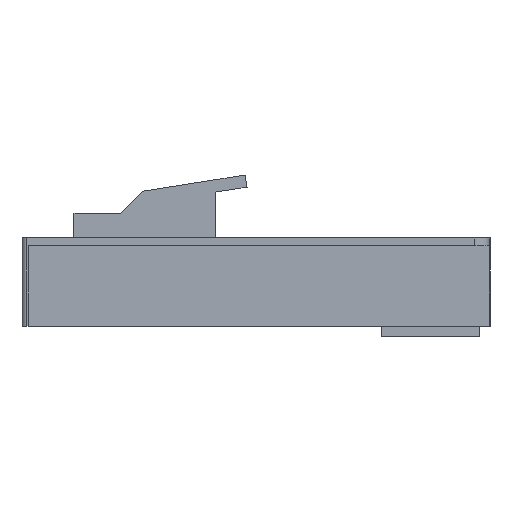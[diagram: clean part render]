
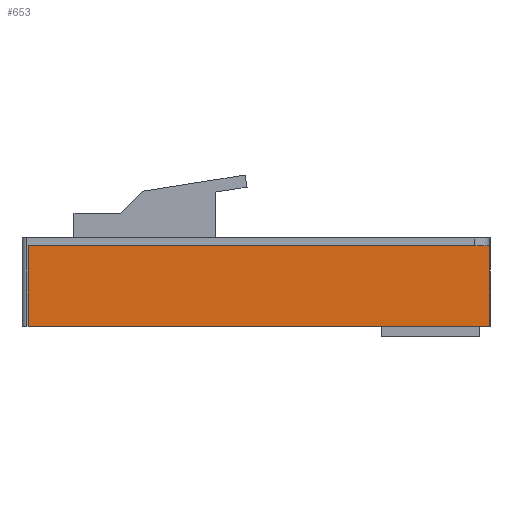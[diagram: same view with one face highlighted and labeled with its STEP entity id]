
A CAD part, left-side view. The second image highlights one B-rep face of the part: STEP entity #653.
In plain terms, the highlighted planar face has unit normal (-1, 0, 0).
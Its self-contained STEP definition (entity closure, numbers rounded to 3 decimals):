
#8 = ORIENTED_EDGE ( 'NONE', *, *, #819, .F. ) ;
#10 = ORIENTED_EDGE ( 'NONE', *, *, #886, .F. ) ;
#12 = ORIENTED_EDGE ( 'NONE', *, *, #858, .T. ) ;
#14 = ORIENTED_EDGE ( 'NONE', *, *, #910, .T. ) ;
#89 = FACE_OUTER_BOUND ( 'NONE', #681, .T. ) ;
#99 = VECTOR ( 'NONE', #377, 1000. ) ;
#100 = LINE ( 'NONE', #359, #99 ) ;
#106 = LINE ( 'NONE', #291, #476 ) ;
#141 = VECTOR ( 'NONE', #348, 1000. ) ;
#142 = LINE ( 'NONE', #347, #141 ) ;
#167 = DIRECTION ( 'NONE',  ( 1., 0., 0. ) ) ;
#183 = DIRECTION ( 'NONE',  ( 0., 1., 0. ) ) ;
#187 = PLANE ( 'NONE',  #867 ) ;
#223 = CARTESIAN_POINT ( 'NONE',  ( -3.3, 44.1, -1.6 ) ) ;
#242 = CARTESIAN_POINT ( 'NONE',  ( -3.3, 44.1, -1.6 ) ) ;
#291 = CARTESIAN_POINT ( 'NONE',  ( -3.3, 44.1, -18. ) ) ;
#296 = DIRECTION ( 'NONE',  ( 0., -1., 0. ) ) ;
#347 = CARTESIAN_POINT ( 'NONE',  ( -3.3, -49.89, -1.6 ) ) ;
#348 = DIRECTION ( 'NONE',  ( 0., 0., -1. ) ) ;
#359 = CARTESIAN_POINT ( 'NONE',  ( -3.3, 44.1, -18. ) ) ;
#377 = DIRECTION ( 'NONE',  ( 0., -1., 0. ) ) ;
#407 = DIRECTION ( 'NONE',  ( 0., -1., 0. ) ) ;
#437 = LINE ( 'NONE', #594, #456 ) ;
#442 = VECTOR ( 'NONE', #407, 1000. ) ;
#444 = LINE ( 'NONE', #223, #442 ) ;
#456 = VECTOR ( 'NONE', #596, 1000. ) ;
#476 = VECTOR ( 'NONE', #296, 1000. ) ;
#487 = LINE ( 'NONE', #593, #488 ) ;
#488 = VECTOR ( 'NONE', #620, 1000. ) ;
#497 = VERTEX_POINT ( 'NONE', #581 ) ;
#501 = CARTESIAN_POINT ( 'NONE',  ( -3.3, -47.8, -18. ) ) ;
#504 = CARTESIAN_POINT ( 'NONE',  ( -3.3, 44.1, -1.6 ) ) ;
#507 = CARTESIAN_POINT ( 'NONE',  ( -3.3, -27.8, -18. ) ) ;
#514 = CARTESIAN_POINT ( 'NONE',  ( -3.3, -49.89, -1.6 ) ) ;
#518 = VERTEX_POINT ( 'NONE', #501 ) ;
#552 = VERTEX_POINT ( 'NONE', #504 ) ;
#553 = CARTESIAN_POINT ( 'NONE',  ( -3.3, 44.1, -18. ) ) ;
#569 = VERTEX_POINT ( 'NONE', #514 ) ;
#578 = VERTEX_POINT ( 'NONE', #507 ) ;
#581 = CARTESIAN_POINT ( 'NONE',  ( -3.3, -49.89, -18. ) ) ;
#582 = VERTEX_POINT ( 'NONE', #553 ) ;
#593 = CARTESIAN_POINT ( 'NONE',  ( -3.3, 44.1, -1.6 ) ) ;
#594 = CARTESIAN_POINT ( 'NONE',  ( -3.3, 44.1, -18. ) ) ;
#596 = DIRECTION ( 'NONE',  ( 0., -1., 0. ) ) ;
#620 = DIRECTION ( 'NONE',  ( 0., 0., -1. ) ) ;
#653 = ADVANCED_FACE ( 'NONE', ( #89 ), #187, .F. ) ;
#669 = ORIENTED_EDGE ( 'NONE', *, *, #924, .T. ) ;
#681 = EDGE_LOOP ( 'NONE', ( #14, #756, #12, #8, #10, #669 ) ) ;
#756 = ORIENTED_EDGE ( 'NONE', *, *, #854, .T. ) ;
#819 = EDGE_CURVE ( 'NONE', #569, #497, #142, .T. ) ;
#854 = EDGE_CURVE ( 'NONE', #578, #518, #100, .T. ) ;
#858 = EDGE_CURVE ( 'NONE', #518, #497, #106, .T. ) ;
#867 = AXIS2_PLACEMENT_3D ( 'NONE', #242, #167, #183 ) ;
#886 = EDGE_CURVE ( 'NONE', #552, #569, #444, .T. ) ;
#910 = EDGE_CURVE ( 'NONE', #582, #578, #437, .T. ) ;
#924 = EDGE_CURVE ( 'NONE', #552, #582, #487, .T. ) ;
